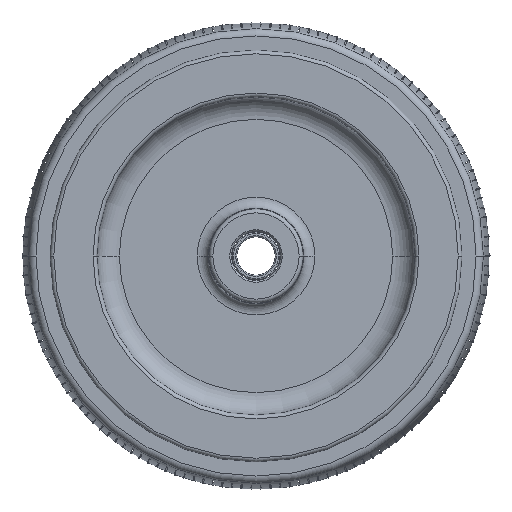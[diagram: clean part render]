
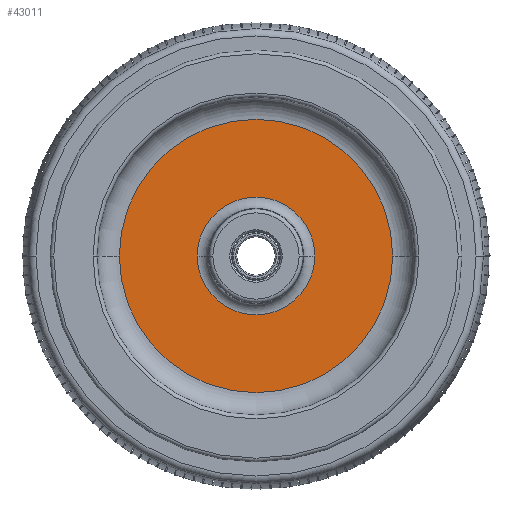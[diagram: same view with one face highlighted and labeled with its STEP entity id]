
A CAD part, left-side view. The second image highlights one B-rep face of the part: STEP entity #43011.
In plain terms, the highlighted planar face has unit normal (-1, 0, 0).
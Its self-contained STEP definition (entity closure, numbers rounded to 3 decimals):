
#10967=CARTESIAN_POINT('',(-3.25,0.,0.));
#10968=DIRECTION('',(-1.,0.,0.));
#10969=DIRECTION('',(0.,1.,0.));
#10970=AXIS2_PLACEMENT_3D('',#10967,#10968,#10969);
#10972=CARTESIAN_POINT('',(-3.25,0.,0.));
#10973=DIRECTION('',(1.,0.,0.));
#10974=DIRECTION('',(0.,1.,0.));
#10975=AXIS2_PLACEMENT_3D('',#10972,#10973,#10974);
#10977=CARTESIAN_POINT('',(-3.25,0.,0.));
#10978=DIRECTION('',(1.,0.,0.));
#10979=DIRECTION('',(0.,1.,0.));
#10980=AXIS2_PLACEMENT_3D('',#10977,#10978,#10979);
#22078=CARTESIAN_POINT('',(-3.25,0.,0.));
#22079=DIRECTION('',(-1.,0.,0.));
#22080=DIRECTION('',(0.,1.,0.));
#22081=AXIS2_PLACEMENT_3D('',#22078,#22079,#22080);
#32220=CARTESIAN_POINT('',(-3.25,36.5,0.));
#32221=VERTEX_POINT('',#32220);
#32222=CARTESIAN_POINT('',(-3.25,15.703,0.));
#32224=VERTEX_POINT('',#32222);
#32276=CARTESIAN_POINT('',(-3.25,-36.5,0.));
#32277=VERTEX_POINT('',#32276);
#32278=CARTESIAN_POINT('',(-3.25,-15.703,0.));
#32280=VERTEX_POINT('',#32278);
#42995=CARTESIAN_POINT('',(-3.25,0.,0.));
#42996=DIRECTION('',(1.,0.,0.));
#42997=DIRECTION('',(0.,-1.,0.));
#42998=AXIS2_PLACEMENT_3D('',#42995,#42996,#42997);
#42999=PLANE('',#42998);
#43001=ORIENTED_EDGE('',*,*,#43000,.F.);
#43002=ORIENTED_EDGE('',*,*,#42983,.T.);
#43003=EDGE_LOOP('',(#43001,#43002));
#43004=FACE_OUTER_BOUND('',#43003,.F.);
#43006=ORIENTED_EDGE('',*,*,#43005,.F.);
#43008=ORIENTED_EDGE('',*,*,#43007,.T.);
#43009=EDGE_LOOP('',(#43006,#43008));
#43010=FACE_BOUND('',#43009,.F.);
#10971=CIRCLE('',#10970,36.5);
#10976=CIRCLE('',#10975,36.5);
#10981=CIRCLE('',#10980,15.703);
#22082=CIRCLE('',#22081,15.703);
#42983=EDGE_CURVE('',#32221,#32277,#10976,.T.);
#43000=EDGE_CURVE('',#32221,#32277,#10971,.T.);
#43005=EDGE_CURVE('',#32224,#32280,#10981,.T.);
#43007=EDGE_CURVE('',#32224,#32280,#22082,.T.);
#43011=ADVANCED_FACE('',(#43004,#43010),#42999,.F.);
